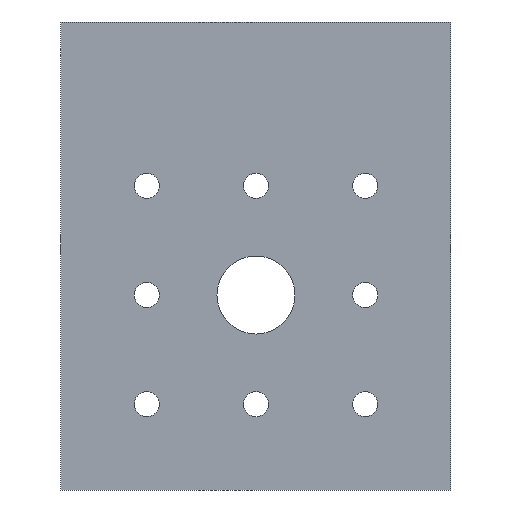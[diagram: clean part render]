
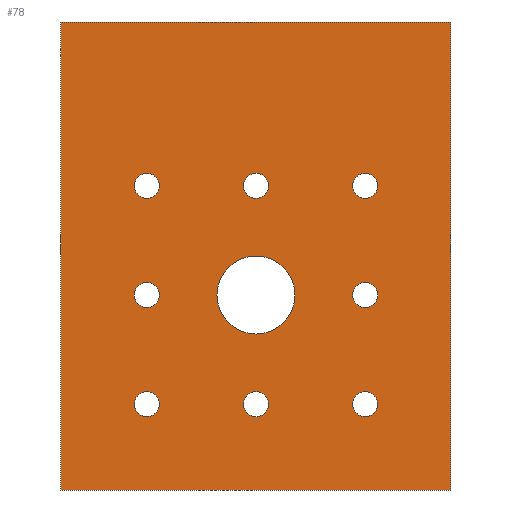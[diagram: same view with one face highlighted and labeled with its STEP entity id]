
A CAD part, front view. The second image highlights one B-rep face of the part: STEP entity #78.
In plain terms, the highlighted planar face has unit normal (0, -1, 0).
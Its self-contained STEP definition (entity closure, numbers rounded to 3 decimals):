
#78 = ADVANCED_FACE( '', ( #109, #110, #111, #112, #113, #114, #115, #116, #117, #118 ), #119, .T. );
#109 = FACE_OUTER_BOUND( '', #210, .T. );
#110 = FACE_BOUND( '', #211, .T. );
#111 = FACE_BOUND( '', #212, .T. );
#112 = FACE_BOUND( '', #213, .T. );
#113 = FACE_BOUND( '', #214, .T. );
#114 = FACE_BOUND( '', #215, .T. );
#115 = FACE_BOUND( '', #216, .T. );
#116 = FACE_BOUND( '', #217, .T. );
#117 = FACE_BOUND( '', #218, .T. );
#118 = FACE_BOUND( '', #219, .T. );
#119 = PLANE( '', #220 );
#210 = EDGE_LOOP( '', ( #322, #323, #324, #325 ) );
#211 = EDGE_LOOP( '', ( #326 ) );
#212 = EDGE_LOOP( '', ( #327 ) );
#213 = EDGE_LOOP( '', ( #328 ) );
#214 = EDGE_LOOP( '', ( #329 ) );
#215 = EDGE_LOOP( '', ( #330 ) );
#216 = EDGE_LOOP( '', ( #331 ) );
#217 = EDGE_LOOP( '', ( #332 ) );
#218 = EDGE_LOOP( '', ( #333 ) );
#219 = EDGE_LOOP( '', ( #334 ) );
#220 = AXIS2_PLACEMENT_3D( '', #335, #336, #337 );
#322 = ORIENTED_EDGE( '', *, *, #492, .T. );
#323 = ORIENTED_EDGE( '', *, *, #493, .F. );
#324 = ORIENTED_EDGE( '', *, *, #482, .F. );
#325 = ORIENTED_EDGE( '', *, *, #494, .T. );
#326 = ORIENTED_EDGE( '', *, *, #495, .T. );
#327 = ORIENTED_EDGE( '', *, *, #488, .T. );
#328 = ORIENTED_EDGE( '', *, *, #496, .T. );
#329 = ORIENTED_EDGE( '', *, *, #497, .T. );
#330 = ORIENTED_EDGE( '', *, *, #498, .T. );
#331 = ORIENTED_EDGE( '', *, *, #499, .T. );
#332 = ORIENTED_EDGE( '', *, *, #490, .T. );
#333 = ORIENTED_EDGE( '', *, *, #500, .T. );
#334 = ORIENTED_EDGE( '', *, *, #501, .T. );
#335 = CARTESIAN_POINT( '', ( 0., -17.5, -15. ) );
#336 = DIRECTION( '', ( 0., -1., 0. ) );
#337 = DIRECTION( '', ( 0., 0., -1. ) );
#482 = EDGE_CURVE( '', #534, #535, #536, .T. );
#488 = EDGE_CURVE( '', #546, #546, #547, .T. );
#490 = EDGE_CURVE( '', #550, #550, #551, .T. );
#492 = EDGE_CURVE( '', #554, #555, #556, .T. );
#493 = EDGE_CURVE( '', #535, #555, #557, .F. );
#494 = EDGE_CURVE( '', #534, #554, #558, .T. );
#495 = EDGE_CURVE( '', #559, #559, #560, .T. );
#496 = EDGE_CURVE( '', #561, #561, #562, .T. );
#497 = EDGE_CURVE( '', #563, #563, #564, .T. );
#498 = EDGE_CURVE( '', #565, #565, #566, .T. );
#499 = EDGE_CURVE( '', #567, #567, #568, .T. );
#500 = EDGE_CURVE( '', #569, #569, #570, .T. );
#501 = EDGE_CURVE( '', #571, #571, #572, .T. );
#534 = VERTEX_POINT( '', #632 );
#535 = VERTEX_POINT( '', #633 );
#536 = LINE( '', #634, #635 );
#546 = VERTEX_POINT( '', #650 );
#547 = CIRCLE( '', #651, 0.8 );
#550 = VERTEX_POINT( '', #654 );
#551 = CIRCLE( '', #655, 0.8 );
#554 = VERTEX_POINT( '', #658 );
#555 = VERTEX_POINT( '', #659 );
#556 = LINE( '', #660, #661 );
#557 = LINE( '', #662, #663 );
#558 = LINE( '', #664, #665 );
#559 = VERTEX_POINT( '', #666 );
#560 = CIRCLE( '', #667, 2.5 );
#561 = VERTEX_POINT( '', #668 );
#562 = CIRCLE( '', #669, 0.8 );
#563 = VERTEX_POINT( '', #670 );
#564 = CIRCLE( '', #671, 0.8 );
#565 = VERTEX_POINT( '', #672 );
#566 = CIRCLE( '', #673, 0.8 );
#567 = VERTEX_POINT( '', #674 );
#568 = CIRCLE( '', #675, 0.8 );
#569 = VERTEX_POINT( '', #676 );
#570 = CIRCLE( '', #677, 0.8 );
#571 = VERTEX_POINT( '', #678 );
#572 = CIRCLE( '', #679, 0.8 );
#632 = CARTESIAN_POINT( '', ( -12.5, -17.5, -15. ) );
#633 = CARTESIAN_POINT( '', ( -12.5, -17.5, 15. ) );
#634 = CARTESIAN_POINT( '', ( -12.5, -17.5, -15. ) );
#635 = VECTOR( '', #748, 1000. );
#650 = CARTESIAN_POINT( '', ( -6.2, -17.5, -2.5 ) );
#651 = AXIS2_PLACEMENT_3D( '', #754, #755, #756 );
#654 = CARTESIAN_POINT( '', ( 7.8, -17.5, 4.5 ) );
#655 = AXIS2_PLACEMENT_3D( '', #760, #761, #762 );
#658 = CARTESIAN_POINT( '', ( 12.5, -17.5, -15. ) );
#659 = CARTESIAN_POINT( '', ( 12.5, -17.5, 15. ) );
#660 = CARTESIAN_POINT( '', ( 12.5, -17.5, -15. ) );
#661 = VECTOR( '', #766, 1000. );
#662 = CARTESIAN_POINT( '', ( 0., -17.5, 15. ) );
#663 = VECTOR( '', #767, 1000. );
#664 = CARTESIAN_POINT( '', ( 0., -17.5, -15. ) );
#665 = VECTOR( '', #768, 1000. );
#666 = CARTESIAN_POINT( '', ( 2.5, -17.5, -2.5 ) );
#667 = AXIS2_PLACEMENT_3D( '', #769, #770, #771 );
#668 = CARTESIAN_POINT( '', ( -6.2, -17.5, -9.5 ) );
#669 = AXIS2_PLACEMENT_3D( '', #772, #773, #774 );
#670 = CARTESIAN_POINT( '', ( 0.8, -17.5, -9.5 ) );
#671 = AXIS2_PLACEMENT_3D( '', #775, #776, #777 );
#672 = CARTESIAN_POINT( '', ( 7.8, -17.5, -9.5 ) );
#673 = AXIS2_PLACEMENT_3D( '', #778, #779, #780 );
#674 = CARTESIAN_POINT( '', ( 7.8, -17.5, -2.5 ) );
#675 = AXIS2_PLACEMENT_3D( '', #781, #782, #783 );
#676 = CARTESIAN_POINT( '', ( 0.8, -17.5, 4.5 ) );
#677 = AXIS2_PLACEMENT_3D( '', #784, #785, #786 );
#678 = CARTESIAN_POINT( '', ( -6.2, -17.5, 4.5 ) );
#679 = AXIS2_PLACEMENT_3D( '', #787, #788, #789 );
#748 = DIRECTION( '', ( 0., 0., 1. ) );
#754 = CARTESIAN_POINT( '', ( -7., -17.5, -2.5 ) );
#755 = DIRECTION( '', ( 0., 1., 0. ) );
#756 = DIRECTION( '', ( 1., 0., 0. ) );
#760 = CARTESIAN_POINT( '', ( 7., -17.5, 4.5 ) );
#761 = DIRECTION( '', ( 0., 1., 0. ) );
#762 = DIRECTION( '', ( 1., 0., 0. ) );
#766 = DIRECTION( '', ( 0., 0., 1. ) );
#767 = DIRECTION( '', ( -1., 0., 0. ) );
#768 = DIRECTION( '', ( 1., 0., 0. ) );
#769 = CARTESIAN_POINT( '', ( 0., -17.5, -2.5 ) );
#770 = DIRECTION( '', ( 0., 1., 0. ) );
#771 = DIRECTION( '', ( 1., 0., 0. ) );
#772 = CARTESIAN_POINT( '', ( -7., -17.5, -9.5 ) );
#773 = DIRECTION( '', ( 0., 1., 0. ) );
#774 = DIRECTION( '', ( 1., 0., 0. ) );
#775 = CARTESIAN_POINT( '', ( 0., -17.5, -9.5 ) );
#776 = DIRECTION( '', ( 0., 1., 0. ) );
#777 = DIRECTION( '', ( 1., 0., 0. ) );
#778 = CARTESIAN_POINT( '', ( 7., -17.5, -9.5 ) );
#779 = DIRECTION( '', ( 0., 1., 0. ) );
#780 = DIRECTION( '', ( 1., 0., 0. ) );
#781 = CARTESIAN_POINT( '', ( 7., -17.5, -2.5 ) );
#782 = DIRECTION( '', ( 0., 1., 0. ) );
#783 = DIRECTION( '', ( 1., 0., 0. ) );
#784 = CARTESIAN_POINT( '', ( 0., -17.5, 4.5 ) );
#785 = DIRECTION( '', ( 0., 1., 0. ) );
#786 = DIRECTION( '', ( 1., 0., 0. ) );
#787 = CARTESIAN_POINT( '', ( -7., -17.5, 4.5 ) );
#788 = DIRECTION( '', ( 0., 1., 0. ) );
#789 = DIRECTION( '', ( 1., 0., 0. ) );
